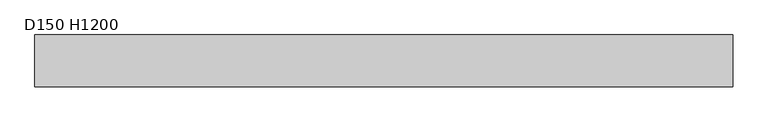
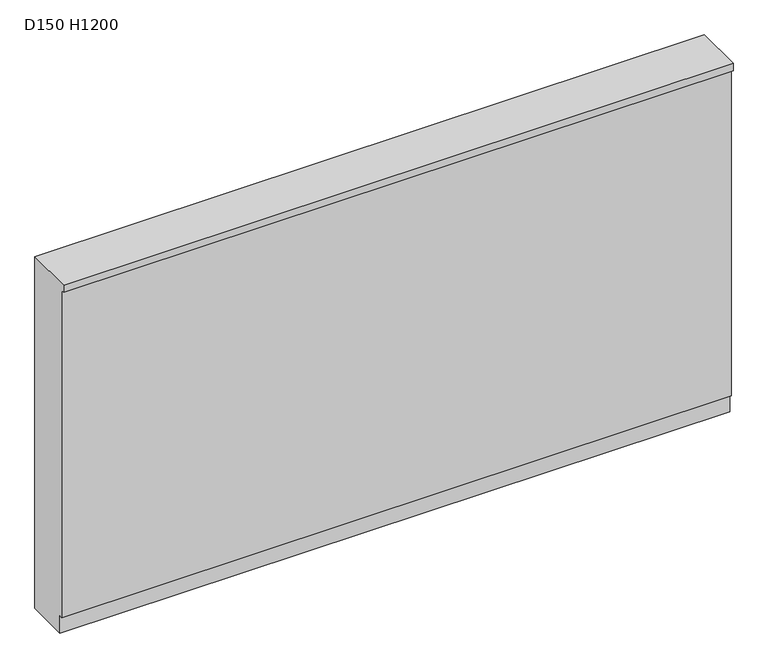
"""IFC4 building model written with IfcOpenShell, lengths in millimetres: proxy geometry, r ライニング : D150 H1200."""

from ifc_helpers import new_model, si_unit, frame, origin, place, context, project, spatial, polyline, outline, extrude, source, transform, mapped, element, save


def d150_h1200_d4f8d7fc(model_context):
    return source(origin(), model_context, "Body", "SweptSolid", [
        extrude(outline(polyline([(-160.0, 1175.0), (-160.0, 1200.0), (0.0, 1200.0), (0.0, 0.0), (-140.0, 0.0), (-140.0, 60.0), (-150.0, 60.0), (-150.0, 1175.0), (-160.0, 1175.0)])), frame((0.0, 0.0, 0.0), z_axis=(1.0, 0.0, 0.0), x_axis=(0.0, 1.0, 0.0)), (0.0, 0.0, 1.0), 2160.0),
    ])


if __name__ == "__main__":
    model = new_model("IFC4")
    model_context = context("Model", 3, world=origin())
    ifc_project = project(units=[si_unit("LENGTHUNIT", "METRE", prefix="MILLI")], contexts=[model_context])
    site = spatial("IfcSite", under=ifc_project)
    building = spatial("IfcBuilding", under=site)
    placement = place(None, origin())
    d150_h1200_shape = d150_h1200_d4f8d7fc(model_context)
    element("IfcBuildingElementProxy", 1, Name="r ライニング : D150 H1200", ObjectType="r ライニング : D150 H1200", at=placement, inside=building, context=model_context, shape_type="MappedRepresentation", body=[
        mapped(d150_h1200_shape, transform((0.0, 0.0, 0.0), x_axis=(1.0, 0.0, 0.0), y_axis=(0.0, 1.0, 0.0), z_axis=(0.0, 0.0, 1.0))),
    ])
    save(model, "model.ifc")
